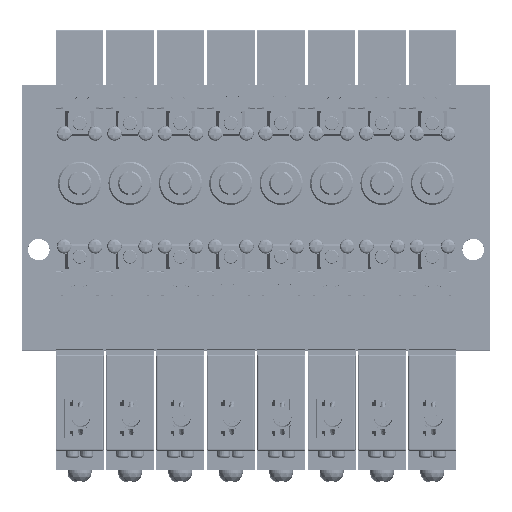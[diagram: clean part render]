
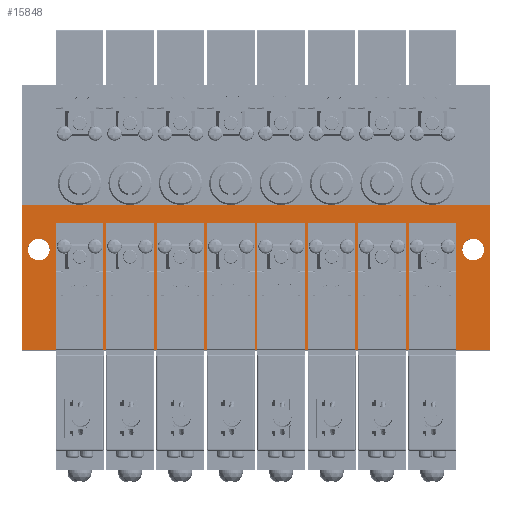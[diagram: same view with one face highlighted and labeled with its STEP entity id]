
A CAD part, top view. The second image highlights one B-rep face of the part: STEP entity #15848.
In plain terms, the highlighted planar face has unit normal (0, 0, 1).
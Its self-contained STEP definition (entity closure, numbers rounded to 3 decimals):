
#15848=ADVANCED_FACE('',(#26872,#26873,#26874),#26875,.F.);
#26872=FACE_BOUND('',#49152,.T.);
#26873=FACE_BOUND('',#49153,.T.);
#26874=FACE_OUTER_BOUND('',#49154,.T.);
#26875=PLANE('',#49155);
#49152=EDGE_LOOP('',(#75040));
#49153=EDGE_LOOP('',(#75041));
#49154=EDGE_LOOP('',(#75042,#75043,#75044,#75045));
#49155=AXIS2_PLACEMENT_3D('',#75046,#75047,#75048);
#75040=ORIENTED_EDGE('',*,*,#161853,.F.);
#75041=ORIENTED_EDGE('',*,*,#161854,.F.);
#75042=ORIENTED_EDGE('',*,*,#161850,.F.);
#75043=ORIENTED_EDGE('',*,*,#161865,.F.);
#75044=ORIENTED_EDGE('',*,*,#161817,.T.);
#75045=ORIENTED_EDGE('',*,*,#161864,.T.);
#75046=CARTESIAN_POINT('',(-97.5,30.3,14.8));
#75047=DIRECTION('',(0.0,0.0,-1.0));
#75048=DIRECTION('',(1.0,0.0,0.0));
#161817=EDGE_CURVE('',#189958,#189956,#189959,.T.);
#161850=EDGE_CURVE('',#190017,#190019,#190020,.T.);
#161853=EDGE_CURVE('',#190024,#190024,#190025,.T.);
#161854=EDGE_CURVE('',#190026,#190026,#190027,.T.);
#161864=EDGE_CURVE('',#189956,#190019,#190045,.T.);
#161865=EDGE_CURVE('',#189958,#190017,#190046,.T.);
#189956=VERTEX_POINT('',#237275);
#189958=VERTEX_POINT('',#237278);
#189959=LINE('',#237279,#237280);
#190017=VERTEX_POINT('',#237351);
#190019=VERTEX_POINT('',#237354);
#190020=LINE('',#237355,#237356);
#190024=VERTEX_POINT('',#237362);
#190025=CIRCLE('',#237363,2.25);
#190026=VERTEX_POINT('',#237364);
#190027=CIRCLE('',#237365,2.25);
#190045=LINE('',#237384,#237385);
#190046=LINE('',#237386,#237387);
#237275=CARTESIAN_POINT('',(-97.5,0.,14.8));
#237278=CARTESIAN_POINT('',(-97.5,30.3,14.8));
#237279=CARTESIAN_POINT('',(-97.5,30.3,14.8));
#237280=VECTOR('',#311268,1.0);
#237351=CARTESIAN_POINT('',(0.0,30.3,14.8));
#237354=CARTESIAN_POINT('',(0.0,0.,14.8));
#237355=CARTESIAN_POINT('',(0.0,30.3,14.8));
#237356=VECTOR('',#311337,1.0);
#237362=CARTESIAN_POINT('',(-1.25,21.0,14.8));
#237363=AXIS2_PLACEMENT_3D('',#311340,#311341,#311342);
#237364=CARTESIAN_POINT('',(-91.75,21.0,14.8));
#237365=AXIS2_PLACEMENT_3D('',#311343,#311344,#311345);
#237384=CARTESIAN_POINT('',(-97.5,0.,14.8));
#237385=VECTOR('',#311371,1.0);
#237386=CARTESIAN_POINT('',(-97.5,30.3,14.8));
#237387=VECTOR('',#311372,1.0);
#311268=DIRECTION('',(0.0,-1.0,0.0));
#311337=DIRECTION('',(0.0,-1.0,0.0));
#311340=CARTESIAN_POINT('',(-3.5,21.0,14.8));
#311341=DIRECTION('',(0.0,0.0,1.0));
#311342=DIRECTION('',(1.0,0.0,0.0));
#311343=CARTESIAN_POINT('',(-94.0,21.0,14.8));
#311344=DIRECTION('',(0.0,0.0,1.0));
#311345=DIRECTION('',(1.0,0.0,0.0));
#311371=DIRECTION('',(1.0,0.0,0.0));
#311372=DIRECTION('',(1.0,0.0,0.0));
